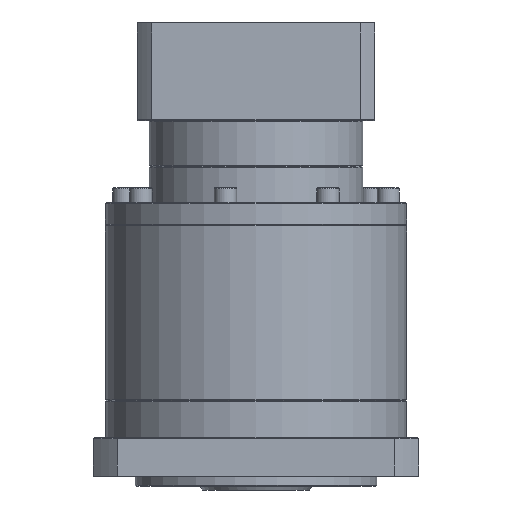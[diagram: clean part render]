
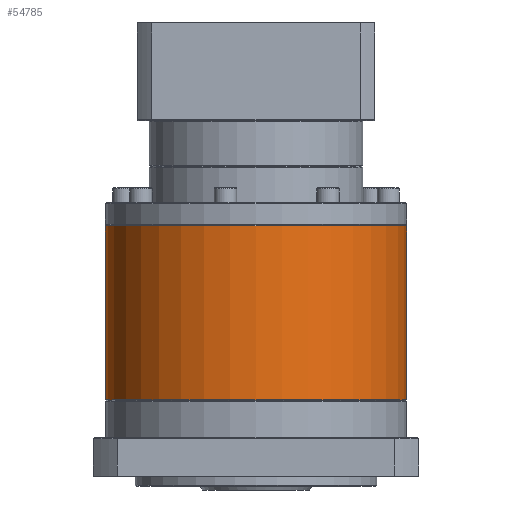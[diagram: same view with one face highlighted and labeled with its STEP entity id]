
A CAD part, front view. The second image highlights one B-rep face of the part: STEP entity #54785.
In plain terms, the highlighted cylindrical face has radius 81 mm (diameter 162 mm), a partial arc.
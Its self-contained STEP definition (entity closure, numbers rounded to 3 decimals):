
#2227 = CARTESIAN_POINT ( 'NONE',  ( -186.592, 139.255, -76.848 ) ) ;
#3189 = CIRCLE ( 'NONE', #64770, 81. ) ;
#4825 = DIRECTION ( 'NONE',  ( 0., 0., 1. ) ) ;
#8236 = CARTESIAN_POINT ( 'NONE',  ( -24.592, 139.255, -170.348 ) ) ;
#15505 = CARTESIAN_POINT ( 'NONE',  ( -24.592, 139.255, -76.848 ) ) ;
#16287 = VERTEX_POINT ( 'NONE', #8236 ) ;
#17570 = CYLINDRICAL_SURFACE ( 'NONE', #95787, 81. ) ;
#18214 = VERTEX_POINT ( 'NONE', #15505 ) ;
#27945 = EDGE_CURVE ( 'NONE', #18214, #83639, #3189, .T. ) ;
#31509 = VECTOR ( 'NONE', #56823, 1000. ) ;
#41851 = EDGE_CURVE ( 'NONE', #83639, #115676, #65631, .T. ) ;
#45257 = VECTOR ( 'NONE', #99256, 1000. ) ;
#45955 = CARTESIAN_POINT ( 'NONE',  ( -186.592, 139.255, -76.348 ) ) ;
#49189 = DIRECTION ( 'NONE',  ( 0., 0., -1. ) ) ;
#54785 = ADVANCED_FACE ( 'NONE', ( #126418 ), #17570, .T. ) ;
#56823 = DIRECTION ( 'NONE',  ( 0., 0., -1. ) ) ;
#64770 = AXIS2_PLACEMENT_3D ( 'NONE', #130032, #87760, #77275 ) ;
#65631 = LINE ( 'NONE', #45955, #31509 ) ;
#66084 = CARTESIAN_POINT ( 'NONE',  ( -24.592, 139.255, -76.348 ) ) ;
#68842 = DIRECTION ( 'NONE',  ( -1., 0., 0. ) ) ;
#70375 = EDGE_CURVE ( 'NONE', #18214, #16287, #72803, .T. ) ;
#72803 = LINE ( 'NONE', #66084, #45257 ) ;
#74579 = ORIENTED_EDGE ( 'NONE', *, *, #41851, .T. ) ;
#75739 = ORIENTED_EDGE ( 'NONE', *, *, #121424, .T. ) ;
#77275 = DIRECTION ( 'NONE',  ( -1., 0., 0. ) ) ;
#83639 = VERTEX_POINT ( 'NONE', #2227 ) ;
#87760 = DIRECTION ( 'NONE',  ( 0., 0., -1. ) ) ;
#90779 = CARTESIAN_POINT ( 'NONE',  ( -186.592, 139.255, -170.348 ) ) ;
#94222 = AXIS2_PLACEMENT_3D ( 'NONE', #108410, #4825, #68842 ) ;
#95787 = AXIS2_PLACEMENT_3D ( 'NONE', #122707, #49189, #121368 ) ;
#99256 = DIRECTION ( 'NONE',  ( 0., 0., -1. ) ) ;
#99647 = CIRCLE ( 'NONE', #94222, 81. ) ;
#101668 = ORIENTED_EDGE ( 'NONE', *, *, #27945, .T. ) ;
#108410 = CARTESIAN_POINT ( 'NONE',  ( -105.592, 139.255, -170.348 ) ) ;
#115676 = VERTEX_POINT ( 'NONE', #90779 ) ;
#117363 = ORIENTED_EDGE ( 'NONE', *, *, #70375, .F. ) ;
#121368 = DIRECTION ( 'NONE',  ( -1., 0., 0. ) ) ;
#121424 = EDGE_CURVE ( 'NONE', #115676, #16287, #99647, .T. ) ;
#122707 = CARTESIAN_POINT ( 'NONE',  ( -105.592, 139.255, -76.348 ) ) ;
#125987 = EDGE_LOOP ( 'NONE', ( #117363, #101668, #74579, #75739 ) ) ;
#126418 = FACE_OUTER_BOUND ( 'NONE', #125987, .T. ) ;
#130032 = CARTESIAN_POINT ( 'NONE',  ( -105.592, 139.255, -76.848 ) ) ;
